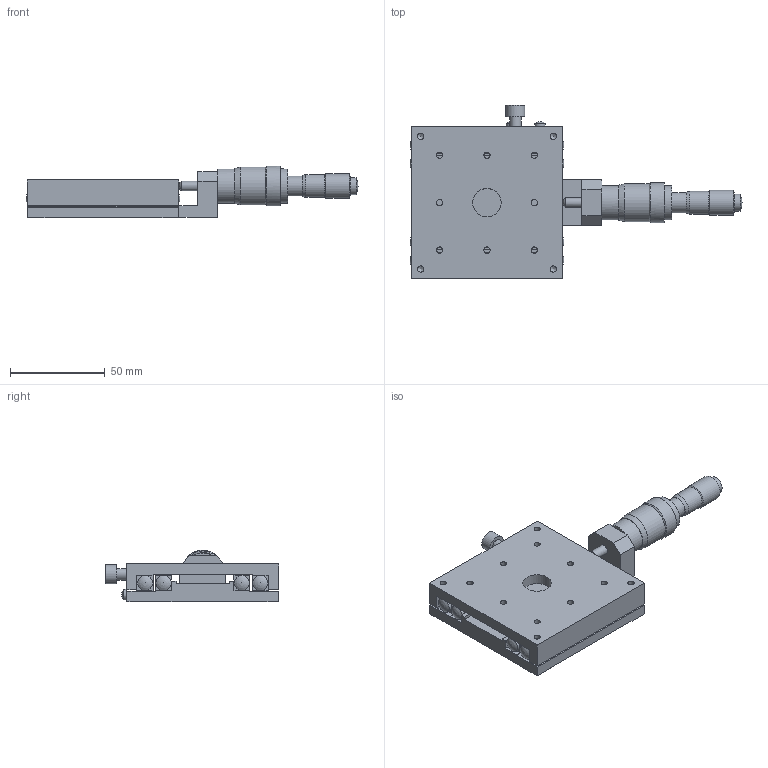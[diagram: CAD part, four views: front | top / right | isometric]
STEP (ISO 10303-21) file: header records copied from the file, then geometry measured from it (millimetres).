
FILE_DESCRIPTION( ( 'STEP AP214' ), '1' );
FILE_NAME( 'C:/Project/3D_B11-80B-配布-070508.stp', '2007-05-08T10:42:21', ( ' ' ), ( ' ' ), 'XStep 1.0', ' ', ' ' );
FILE_SCHEMA( ( 'automotive_design' ) );
Length unit declared in the file: millimetre
Products named in the file (3): 1; 2; 3
Bounding box: 175.1 x 91.3 x 27.3 mm (x, y, z)
Volume: 131430.3 mm3; surface area: 46883.1 mm2
Topology: 3 solids, 3 shells, 187 faces, 518 edges, 342 vertices
Faces by surface type: plane 99, cylinder 61, cone 15, sphere 12
Full cylindrical faces by diameter (mm): 3 x1, 3.3 x16, 4.5 x4, 5 x2, 5.598 x2, 6 x1, 7.998 x8, 8 x4, 9 x1, 10 x1, 10.5 x2, 12 x1, 13 x1, 15 x1, 18 x2, 20 x1, 21 x1
Entity records: 6762 total; most frequent: CARTESIAN_POINT 908, DIRECTION 890, ORIENTED_EDGE 790, EDGE_CURVE 395, AXIS2_PLACEMENT_3D 311, VERTEX_POINT 293, EDGE_LOOP 292, LINE 268
